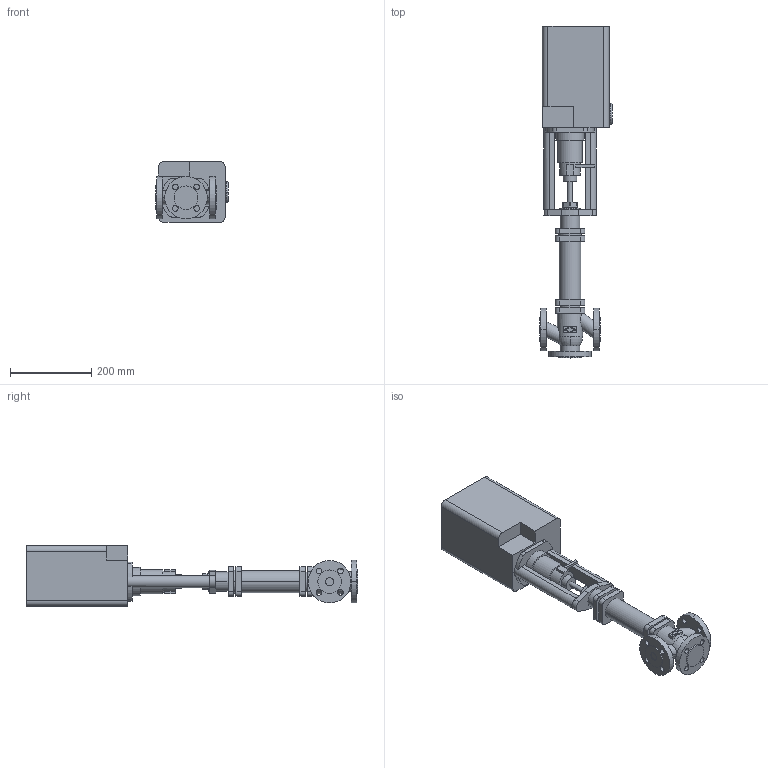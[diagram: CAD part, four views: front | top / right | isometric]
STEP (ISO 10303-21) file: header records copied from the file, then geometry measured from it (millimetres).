
FILE_DESCRIPTION(('OneSpaceDesigner STEP Export'),'2;1');
FILE_NAME('c000000415.stp','2006-09-21T11:36:01',(''),(''),'OneSpace Designer STEP processor for AP214 (Solid Model)','OneSpace Designer 13.20A 18-Aug-2005 (C) CoCreate Software GmbH','');
FILE_SCHEMA(('AUTOMOTIVE_DESIGN { 1 0 10303 214 1 1 1 1 }'));
Length unit declared in the file: millimetre
Products named in the file (2): 1; 2
Bounding box: 179.6 x 819 x 150 mm (x, y, z)
Volume: 8232678.1 mm3; surface area: 448375.4 mm2
Topology: 2 solids, 2 shells, 229 faces, 581 edges, 387 vertices
Faces by surface type: plane 113, cylinder 112, torus 4
Entity records: 6613 total; most frequent: CARTESIAN_POINT 1219, ORIENTED_EDGE 1162, DIRECTION 1045, EDGE_CURVE 581, VERTEX_POINT 387, AXIS2_PLACEMENT_3D 361, VECTOR 323, LINE 323
